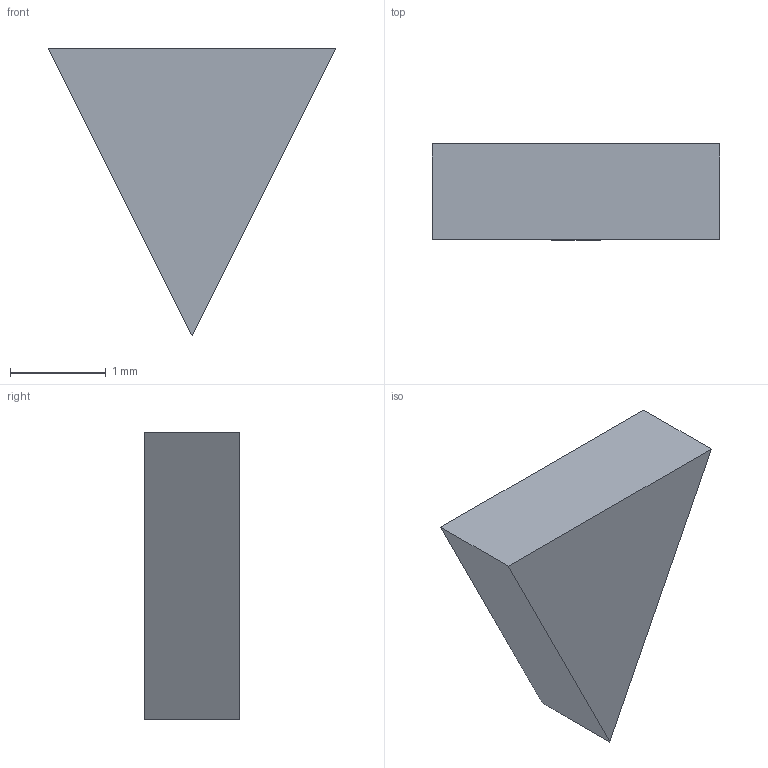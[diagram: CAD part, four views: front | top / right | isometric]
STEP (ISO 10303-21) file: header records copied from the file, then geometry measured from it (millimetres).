
FILE_DESCRIPTION(('STEP AP214'),'1');
FILE_NAME('tmp0.STEP','2026-06-08T19:06:11',(' '),(' '),'Spatial InterOp 3D',' ',' ');
FILE_SCHEMA(('AUTOMOTIVE_DESIGN { 1 0 10303 214 1 1 1 1 }'));
Length unit declared in the file: millimetre
Products named in the file (1): Thickness Data
Bounding box: 3 x 1 x 3 mm (x, y, z)
Volume: 4.5 mm3; surface area: 18.7 mm2
Topology: 1 solids, 1 shells, 5 faces, 9 edges, 6 vertices
Faces by surface type: plane 5
Entity records: 148 total; most frequent: CARTESIAN_POINT 21, DIRECTION 21, ORIENTED_EDGE 18, EDGE_CURVE 9, LINE 9, VECTOR 9, AXIS2_PLACEMENT_3D 6, VERTEX_POINT 6
